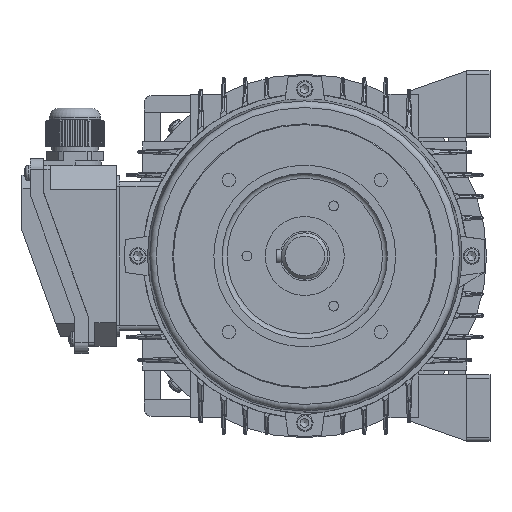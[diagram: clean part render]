
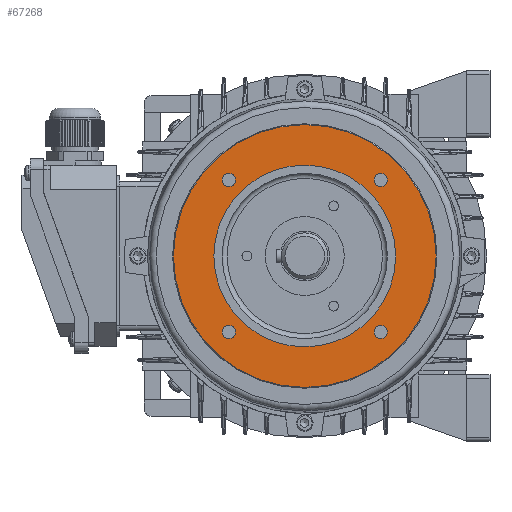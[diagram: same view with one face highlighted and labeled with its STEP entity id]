
A CAD part, left-side view. The second image highlights one B-rep face of the part: STEP entity #67268.
In plain terms, the highlighted planar face has unit normal (-1, 0, 0).
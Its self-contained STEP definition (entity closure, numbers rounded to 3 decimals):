
#14080=FACE_BOUND('',#21730,.T.);
#14081=FACE_BOUND('',#21731,.T.);
#14082=FACE_BOUND('',#21732,.T.);
#14083=FACE_BOUND('',#21733,.T.);
#14084=FACE_BOUND('',#21734,.T.);
#17697=FACE_OUTER_BOUND('',#21729,.T.);
#21729=EDGE_LOOP('',(#57796));
#21730=EDGE_LOOP('',(#57797));
#21731=EDGE_LOOP('',(#57798));
#21732=EDGE_LOOP('',(#57799));
#21733=EDGE_LOOP('',(#57800));
#21734=EDGE_LOOP('',(#57801));
#24248=CIRCLE('',#72854,55.);
#24250=CIRCLE('',#72858,79.5);
#24251=CIRCLE('',#72859,4.);
#24252=CIRCLE('',#72860,4.);
#24253=CIRCLE('',#72861,4.);
#24254=CIRCLE('',#72862,4.);
#30176=VERTEX_POINT('',#127925);
#30178=VERTEX_POINT('',#127931);
#30179=VERTEX_POINT('',#127933);
#30180=VERTEX_POINT('',#127935);
#30181=VERTEX_POINT('',#127937);
#30182=VERTEX_POINT('',#127939);
#39430=EDGE_CURVE('',#30176,#30176,#24248,.T.);
#39432=EDGE_CURVE('',#30178,#30178,#24250,.T.);
#39433=EDGE_CURVE('',#30179,#30179,#24251,.T.);
#39434=EDGE_CURVE('',#30180,#30180,#24252,.T.);
#39435=EDGE_CURVE('',#30181,#30181,#24253,.T.);
#39436=EDGE_CURVE('',#30182,#30182,#24254,.T.);
#57796=ORIENTED_EDGE('',*,*,#39432,.F.);
#57797=ORIENTED_EDGE('',*,*,#39433,.T.);
#57798=ORIENTED_EDGE('',*,*,#39434,.T.);
#57799=ORIENTED_EDGE('',*,*,#39435,.T.);
#57800=ORIENTED_EDGE('',*,*,#39436,.T.);
#57801=ORIENTED_EDGE('',*,*,#39430,.F.);
#60179=PLANE('',#72857);
#67268=ADVANCED_FACE('',(#17697,#14080,#14081,#14082,#14083,#14084),#60179,
 .T.);
#72854=AXIS2_PLACEMENT_3D('',#127926,#88890,#88891);
#72857=AXIS2_PLACEMENT_3D('',#127930,#88896,#88897);
#72858=AXIS2_PLACEMENT_3D('',#127932,#88898,#88899);
#72859=AXIS2_PLACEMENT_3D('',#127934,#88900,#88901);
#72860=AXIS2_PLACEMENT_3D('',#127936,#88902,#88903);
#72861=AXIS2_PLACEMENT_3D('',#127938,#88904,#88905);
#72862=AXIS2_PLACEMENT_3D('',#127940,#88906,#88907);
#88890=DIRECTION('center_axis',(-1.,0.,0.));
#88891=DIRECTION('ref_axis',(0.,1.,0.));
#88896=DIRECTION('center_axis',(-1.,0.,0.));
#88897=DIRECTION('ref_axis',(0.,0.,1.));
#88898=DIRECTION('center_axis',(1.,0.,0.));
#88899=DIRECTION('ref_axis',(0.,-1.,0.));
#88900=DIRECTION('center_axis',(1.,0.,0.));
#88901=DIRECTION('ref_axis',(0.,-1.,0.));
#88902=DIRECTION('center_axis',(1.,0.,0.));
#88903=DIRECTION('ref_axis',(0.,0.,1.));
#88904=DIRECTION('center_axis',(1.,0.,0.));
#88905=DIRECTION('ref_axis',(0.,1.,0.));
#88906=DIRECTION('center_axis',(1.,0.,0.));
#88907=DIRECTION('ref_axis',(0.,0.,-1.));
#127925=CARTESIAN_POINT('',(-127.767,11.383,0.));
#127926=CARTESIAN_POINT('Origin',(-127.767,-43.617,0.));
#127930=CARTESIAN_POINT('Origin',(-127.767,23.883,0.));
#127931=CARTESIAN_POINT('',(-127.767,35.883,0.));
#127932=CARTESIAN_POINT('Origin',(-127.767,-43.617,0.));
#127933=CARTESIAN_POINT('',(-127.767,6.345,-45.962));
#127934=CARTESIAN_POINT('Origin',(-127.767,2.345,-45.962));
#127935=CARTESIAN_POINT('',(-127.767,-89.579,-49.962));
#127936=CARTESIAN_POINT('Origin',(-127.767,-89.579,-45.962));
#127937=CARTESIAN_POINT('',(-127.767,-93.579,45.962));
#127938=CARTESIAN_POINT('Origin',(-127.767,-89.579,45.962));
#127939=CARTESIAN_POINT('',(-127.767,2.345,49.962));
#127940=CARTESIAN_POINT('Origin',(-127.767,2.345,45.962));
